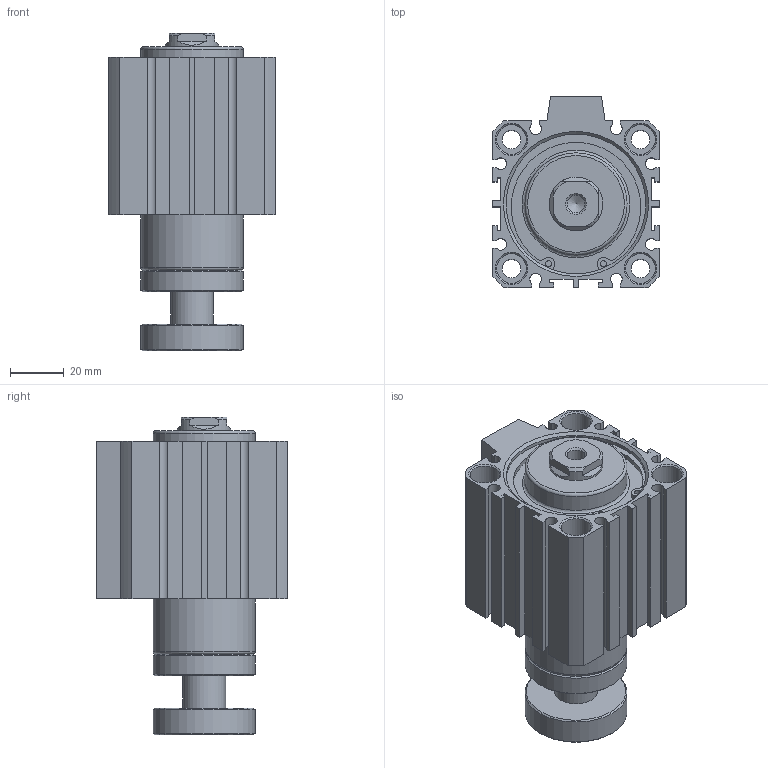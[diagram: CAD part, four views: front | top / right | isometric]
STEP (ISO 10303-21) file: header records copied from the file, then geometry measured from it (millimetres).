
FILE_DESCRIPTION((''),'2;1');
FILE_NAME('I:\3D電子目錄\氣缸\JDAR\JDAR-S\JDAR50-S\JDAR50x20-S.stp','2007-05-05T09:59:15',('662F206'),(''),'Autodesk Inventor 11','Autodesk Inventor 11','');
FILE_SCHEMA(('AUTOMOTIVE_DESIGN { 1 0 10303 214 1 1 1 1 }'));
Length unit declared in the file: millimetre
Products named in the file (3): JDAR50-S; JDAR50; R 形環 52
Assembly tree (3 placements, depth 2):
  JDAR50-S
    JDAR50
    R 形環 52  x2
Bounding box: 62 x 71 x 118.3 mm (x, y, z)
Volume: 245874 mm3; surface area: 51541.1 mm2
Topology: 3 solids, 3 shells, 193 faces, 472 edges, 309 vertices
Faces by surface type: plane 110, cylinder 54, cone 23, bspline 4, torus 2
Full cylindrical faces by diameter (mm): 2.3 x4, 2.7 x2, 6.8 x4, 11 x8, 16 x1, 20 x1, 38 x4, 52 x4, 55 x2
Entity records: 5195 total; most frequent: CARTESIAN_POINT 989, DIRECTION 870, ORIENTED_EDGE 764, EDGE_CURVE 382, AXIS2_PLACEMENT_3D 313, VERTEX_POINT 282, EDGE_LOOP 270, VECTOR 244
